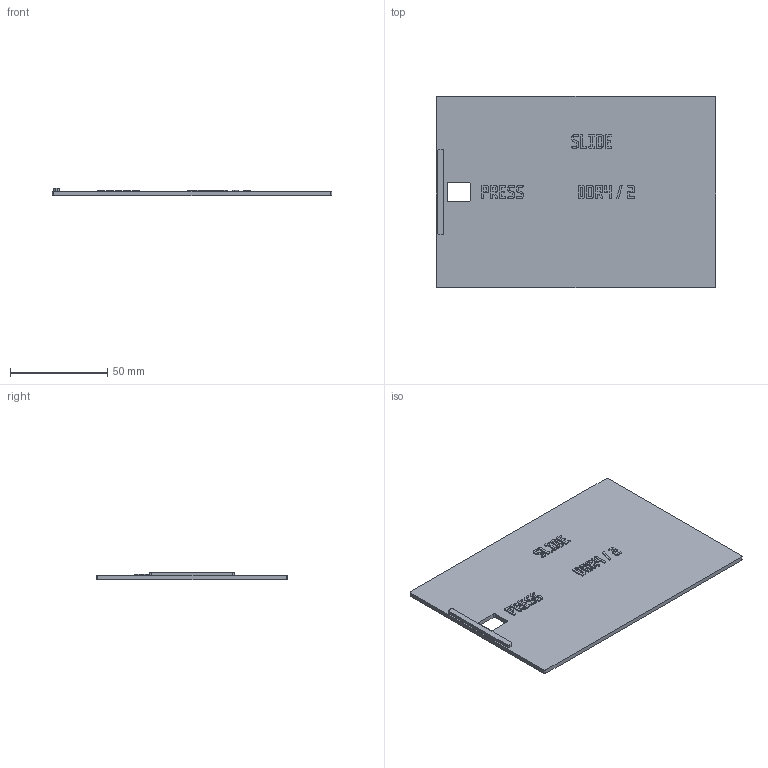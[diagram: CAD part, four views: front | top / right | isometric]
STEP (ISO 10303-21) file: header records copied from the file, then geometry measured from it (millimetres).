
FILE_DESCRIPTION(('Open CASCADE Model'),'2;1');
FILE_NAME('Open CASCADE Shape Model','2026-11-03T10:06:30',('Author'),( 'Open CASCADE'),'Open CASCADE STEP processor 8.0','build123d', 'Unknown');
FILE_SCHEMA(('AUTOMOTIVE_DESIGN { 1 0 10303 214 1 1 1 1 }'));
Products named in the file (1): COMPOUND
Bounding box: 143.6 x 98.4 x 3.8 mm (x, y, z)
Volume: 31160.6 mm3; surface area: 29584 mm2
Topology: 1 solids, 1 shells, 1557 faces, 4596 edges, 3064 vertices
Faces by surface type: plane 1545, cylinder 12
Entity records: 110604 total; most frequent: CARTESIAN_POINT 18474, DIRECTION 16904, LINE 13724, VECTOR 13724, ORIENTED_EDGE 9192, PCURVE 9192, DEFINITIONAL_REPRESENTATION 9192, EDGE_CURVE 4596
